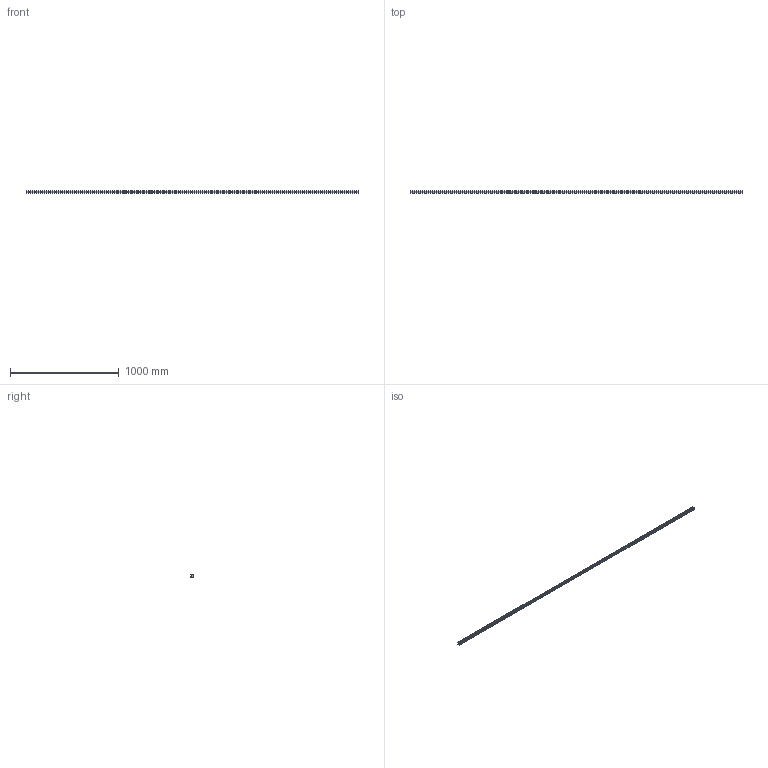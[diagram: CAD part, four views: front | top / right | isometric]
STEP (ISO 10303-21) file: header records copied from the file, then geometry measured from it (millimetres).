
FILE_DESCRIPTION (( 'STEP AP203' ), '1' );
FILE_NAME ('L1018.25R-3060.step', '2023-08-06T10:45:35', ( '' ), ( '' ), 'SwSTEP 2.0', 'SolidWorks 2019', '' );
FILE_SCHEMA (( 'CONFIG_CONTROL_DESIGN' ));
Length unit declared in the file: millimetre
Products named in the file (1): L1018.25R-3060
Bounding box: 3060 x 21.8 x 25 mm (x, y, z)
Volume: 1272617.6 mm3; surface area: 304703.2 mm2
Topology: 1 solids, 1 shells, 488 faces, 1101 edges, 615 vertices
Faces by surface type: cylinder 207, cone 204, plane 77
Entity records: 12932 total; most frequent: DIRECTION 2493, CARTESIAN_POINT 2103, ORIENTED_EDGE 1998, AXIS2_PLACEMENT_3D 1005, EDGE_CURVE 999, VERTEX_POINT 615, EDGE_LOOP 590, CIRCLE 516
